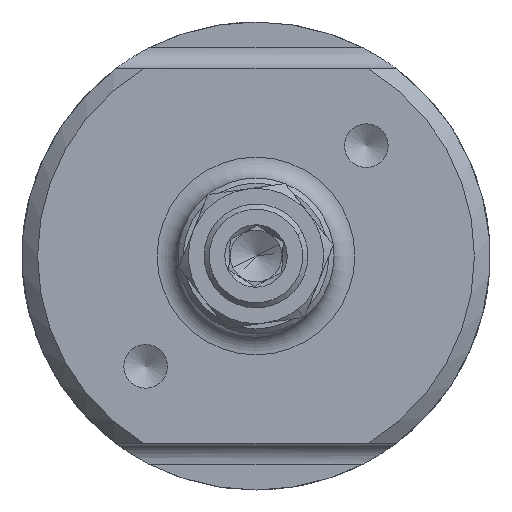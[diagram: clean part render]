
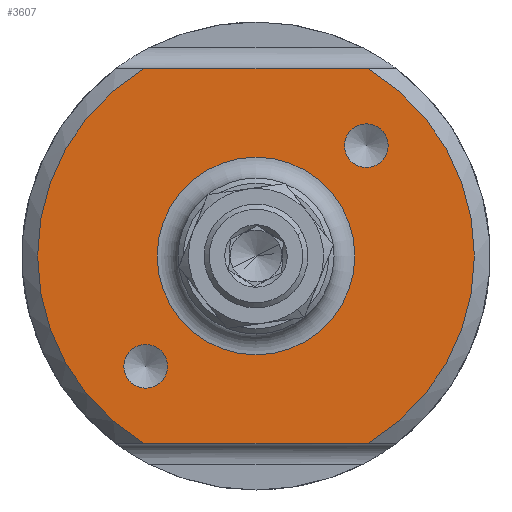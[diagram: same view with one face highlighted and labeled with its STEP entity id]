
A CAD part, front view. The second image highlights one B-rep face of the part: STEP entity #3607.
In plain terms, the highlighted planar face has unit normal (0, -1, 0).
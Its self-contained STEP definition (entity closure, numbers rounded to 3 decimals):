
#219=LINE('',#19665,#436);
#220=LINE('',#19670,#437);
#436=VECTOR('',#8390,1.);
#437=VECTOR('',#8393,1.);
#2933=PLANE('',#7403);
#3314=FACE_OUTER_BOUND('',#4060,.T.);
#3607=ADVANCED_FACE('',(#3782,#3783,#3784,#3314),#2933,.F.);
#3782=FACE_BOUND('',#4057,.T.);
#3783=FACE_BOUND('',#4058,.T.);
#3784=FACE_BOUND('',#4059,.T.);
#4057=EDGE_LOOP('',(#5269));
#4058=EDGE_LOOP('',(#5270));
#4059=EDGE_LOOP('',(#5271));
#4060=EDGE_LOOP('',(#5272,#5273,#5274,#5275));
#5269=ORIENTED_EDGE('',*,*,#6620,.T.);
#5270=ORIENTED_EDGE('',*,*,#6636,.F.);
#5271=ORIENTED_EDGE('',*,*,#6638,.F.);
#5272=ORIENTED_EDGE('',*,*,#6690,.T.);
#5273=ORIENTED_EDGE('',*,*,#6691,.T.);
#5274=ORIENTED_EDGE('',*,*,#6692,.T.);
#5275=ORIENTED_EDGE('',*,*,#6693,.T.);
#5958=VERTEX_POINT('',#15773);
#5973=VERTEX_POINT('',#15844);
#5976=VERTEX_POINT('',#15851);
#6025=VERTEX_POINT('',#19666);
#6026=VERTEX_POINT('',#19667);
#6027=VERTEX_POINT('',#19669);
#6028=VERTEX_POINT('',#19671);
#6620=EDGE_CURVE('',#5958,#5958,#6973,.T.);
#6636=EDGE_CURVE('',#5973,#5973,#6986,.T.);
#6638=EDGE_CURVE('',#5976,#5976,#6988,.T.);
#6690=EDGE_CURVE('',#6025,#6026,#219,.T.);
#6691=EDGE_CURVE('',#6026,#6027,#6995,.T.);
#6692=EDGE_CURVE('',#6027,#6028,#220,.T.);
#6693=EDGE_CURVE('',#6028,#6025,#6996,.T.);
#6973=CIRCLE('',#7360,9.5);
#6986=CIRCLE('',#7384,2.1);
#6988=CIRCLE('',#7388,2.1);
#6995=CIRCLE('',#7401,21.);
#6996=CIRCLE('',#7402,21.);
#7360=AXIS2_PLACEMENT_3D('',#15772,#8304,#8305);
#7384=AXIS2_PLACEMENT_3D('',#15843,#8352,#8353);
#7388=AXIS2_PLACEMENT_3D('',#15850,#8360,#8361);
#7401=AXIS2_PLACEMENT_3D('',#19668,#8391,#8392);
#7402=AXIS2_PLACEMENT_3D('',#19672,#8394,#8395);
#7403=AXIS2_PLACEMENT_3D('',#19673,#8396,#8397);
#8304=DIRECTION('',(0.,1.,0.));
#8305=DIRECTION('',(0.,0.,1.));
#8352=DIRECTION('',(0.,-1.,0.));
#8353=DIRECTION('',(0.,0.,-1.));
#8360=DIRECTION('',(0.,-1.,0.));
#8361=DIRECTION('',(0.,0.,-1.));
#8390=DIRECTION('',(-1.,0.,0.));
#8391=DIRECTION('',(0.,-1.,0.));
#8392=DIRECTION('',(0.,0.,1.));
#8393=DIRECTION('',(1.,0.,0.));
#8394=DIRECTION('',(0.,-1.,0.));
#8395=DIRECTION('',(0.,0.,1.));
#8396=DIRECTION('',(0.,1.,0.));
#8397=DIRECTION('',(0.,0.,1.));
#15772=CARTESIAN_POINT('',(9.075,9.474,36.817));
#15773=CARTESIAN_POINT('',(9.075,9.474,46.317));
#15843=CARTESIAN_POINT('',(19.682,9.474,47.424));
#15844=CARTESIAN_POINT('',(19.682,9.474,45.324));
#15850=CARTESIAN_POINT('',(-1.531,9.474,26.211));
#15851=CARTESIAN_POINT('',(-1.531,9.474,24.111));
#19665=CARTESIAN_POINT('',(9.075,9.474,54.817));
#19666=CARTESIAN_POINT('',(19.892,9.474,54.817));
#19667=CARTESIAN_POINT('',(-1.741,9.474,54.817));
#19668=CARTESIAN_POINT('',(9.075,9.474,36.817));
#19669=CARTESIAN_POINT('',(-1.741,9.474,18.817));
#19670=CARTESIAN_POINT('',(9.075,9.474,18.817));
#19671=CARTESIAN_POINT('',(19.892,9.474,18.817));
#19672=CARTESIAN_POINT('',(9.075,9.474,36.817));
#19673=CARTESIAN_POINT('',(9.075,9.474,36.817));
